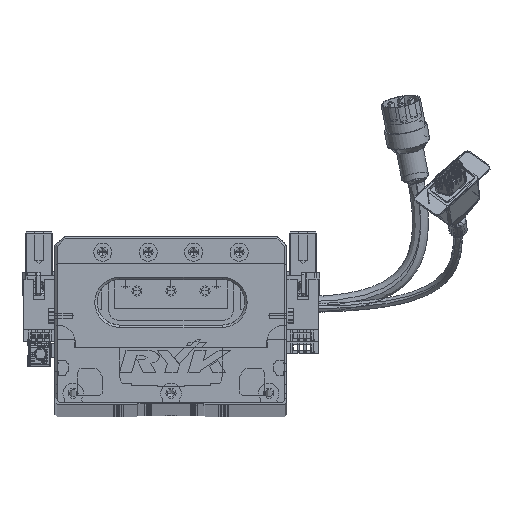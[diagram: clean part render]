
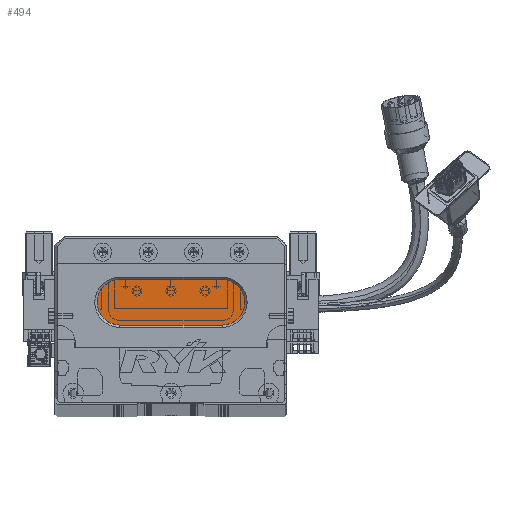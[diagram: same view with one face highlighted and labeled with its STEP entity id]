
A CAD part, top view. The second image highlights one B-rep face of the part: STEP entity #494.
In plain terms, the highlighted planar face has unit normal (0, 0, 1) as drawn and (0, 0, -1) by its records, which use the part's own axes.
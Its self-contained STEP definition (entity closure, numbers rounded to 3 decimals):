
#494 = ADVANCED_FACE ( 'NONE', ( #74235 ), #44304, .T. ) ;
#1926 = VERTEX_POINT ( 'NONE', #15364 ) ;
#2091 = CARTESIAN_POINT ( 'NONE',  ( 73.5, 44., 13. ) ) ;
#5561 = CARTESIAN_POINT ( 'NONE',  ( 73.5, 54., 13. ) ) ;
#6275 = VECTOR ( 'NONE', #77128, 1000. ) ;
#8162 = ORIENTED_EDGE ( 'NONE', *, *, #54132, .T. ) ;
#9404 = DIRECTION ( 'NONE',  ( -1., 0., 0. ) ) ;
#9799 = ORIENTED_EDGE ( 'NONE', *, *, #34730, .T. ) ;
#10559 = LINE ( 'NONE', #72624, #83680 ) ;
#11585 = AXIS2_PLACEMENT_3D ( 'NONE', #71577, #64403, #85526 ) ;
#11747 = CARTESIAN_POINT ( 'NONE',  ( 28.5, 34., 13. ) ) ;
#12419 = ORIENTED_EDGE ( 'NONE', *, *, #75829, .T. ) ;
#14883 = CARTESIAN_POINT ( 'NONE',  ( 73.5, 34., 13. ) ) ;
#15364 = CARTESIAN_POINT ( 'NONE',  ( 28.5, 54., 13. ) ) ;
#18274 = DIRECTION ( 'NONE',  ( 0., 0., -1. ) ) ;
#22915 = DIRECTION ( 'NONE',  ( 0., 0., -1. ) ) ;
#24842 = CARTESIAN_POINT ( 'NONE',  ( 28.5, 44., 13. ) ) ;
#25670 = VERTEX_POINT ( 'NONE', #14883 ) ;
#33562 = VERTEX_POINT ( 'NONE', #11747 ) ;
#34033 = EDGE_LOOP ( 'NONE', ( #12419, #9799, #37497, #8162, #65381 ) ) ;
#34730 = EDGE_CURVE ( 'NONE', #25670, #33562, #10559, .T. ) ;
#37497 = ORIENTED_EDGE ( 'NONE', *, *, #56711, .T. ) ;
#43998 = LINE ( 'NONE', #5561, #6275 ) ;
#44304 = PLANE ( 'NONE',  #60140 ) ;
#48828 = CIRCLE ( 'NONE', #11585, 10. ) ;
#49666 = AXIS2_PLACEMENT_3D ( 'NONE', #81268, #52708, #67935 ) ;
#52708 = DIRECTION ( 'NONE',  ( 0., 0., -1. ) ) ;
#54132 = EDGE_CURVE ( 'NONE', #90255, #1926, #48828, .T. ) ;
#54373 = VERTEX_POINT ( 'NONE', #72476 ) ;
#56711 = EDGE_CURVE ( 'NONE', #33562, #90255, #61823, .T. ) ;
#56893 = AXIS2_PLACEMENT_3D ( 'NONE', #24842, #18274, #87740 ) ;
#56951 = EDGE_CURVE ( 'NONE', #1926, #54373, #43998, .T. ) ;
#60140 = AXIS2_PLACEMENT_3D ( 'NONE', #2091, #22915, #65353 ) ;
#61823 = CIRCLE ( 'NONE', #56893, 10. ) ;
#64403 = DIRECTION ( 'NONE',  ( 0., 0., -1. ) ) ;
#65353 = DIRECTION ( 'NONE',  ( -1., 0., 0. ) ) ;
#65381 = ORIENTED_EDGE ( 'NONE', *, *, #56951, .T. ) ;
#67935 = DIRECTION ( 'NONE',  ( -1., 0., 0. ) ) ;
#71577 = CARTESIAN_POINT ( 'NONE',  ( 28.5, 44., 13. ) ) ;
#72476 = CARTESIAN_POINT ( 'NONE',  ( 73.5, 54., 13. ) ) ;
#72624 = CARTESIAN_POINT ( 'NONE',  ( 73.5, 34., 13. ) ) ;
#74235 = FACE_OUTER_BOUND ( 'NONE', #34033, .T. ) ;
#75829 = EDGE_CURVE ( 'NONE', #54373, #25670, #87082, .T. ) ;
#77128 = DIRECTION ( 'NONE',  ( 1., 0., 0. ) ) ;
#79514 = CARTESIAN_POINT ( 'NONE',  ( 18.5, 44., 13. ) ) ;
#81268 = CARTESIAN_POINT ( 'NONE',  ( 73.5, 44., 13. ) ) ;
#83680 = VECTOR ( 'NONE', #9404, 1000. ) ;
#85526 = DIRECTION ( 'NONE',  ( -1., 0., 0. ) ) ;
#87082 = CIRCLE ( 'NONE', #49666, 10. ) ;
#87740 = DIRECTION ( 'NONE',  ( -1., 0., 0. ) ) ;
#90255 = VERTEX_POINT ( 'NONE', #79514 ) ;
